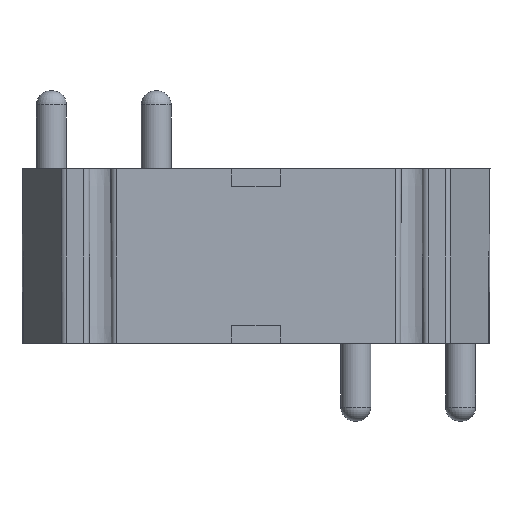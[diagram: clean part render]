
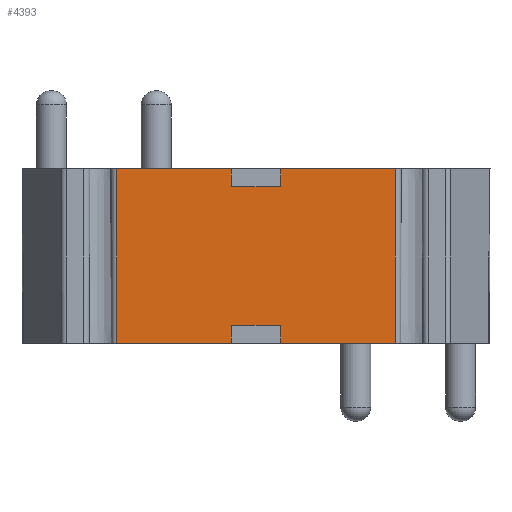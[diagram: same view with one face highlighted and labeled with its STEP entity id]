
A CAD part, front view. The second image highlights one B-rep face of the part: STEP entity #4393.
In plain terms, the highlighted planar face has unit normal (0, -1, -0.004).
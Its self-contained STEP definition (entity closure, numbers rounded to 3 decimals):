
#94 = AXIS2_PLACEMENT_3D ( 'NONE', #4882, #2897, #2138 ) ;
#132 = VERTEX_POINT ( 'NONE', #3778 ) ;
#141 = VECTOR ( 'NONE', #2865, 1000. ) ;
#202 = CARTESIAN_POINT ( 'NONE',  ( 13.95, 0., 0. ) ) ;
#217 = EDGE_CURVE ( 'NONE', #2160, #2809, #679, .T. ) ;
#268 = ORIENTED_EDGE ( 'NONE', *, *, #3731, .F. ) ;
#303 = CARTESIAN_POINT ( 'NONE',  ( 13.95, 0.061, -17.5 ) ) ;
#410 = ORIENTED_EDGE ( 'NONE', *, *, #1772, .T. ) ;
#534 = VERTEX_POINT ( 'NONE', #2699 ) ;
#557 = DIRECTION ( 'NONE',  ( -1., 0., 0. ) ) ;
#560 = CARTESIAN_POINT ( 'NONE',  ( 1.539, -0.003, 0.843 ) ) ;
#583 = VECTOR ( 'NONE', #4877, 1000. ) ;
#679 = LINE ( 'NONE', #2251, #1780 ) ;
#750 = DIRECTION ( 'NONE',  ( 0., 0.003, -1. ) ) ;
#755 = EDGE_LOOP ( 'NONE', ( #1923, #2454, #410, #4020, #797, #4946, #2634, #1502, #1904, #1657, #268, #2034 ) ) ;
#784 = VECTOR ( 'NONE', #1505, 1000. ) ;
#797 = ORIENTED_EDGE ( 'NONE', *, *, #4306, .F. ) ;
#918 = LINE ( 'NONE', #2477, #141 ) ;
#922 = CARTESIAN_POINT ( 'NONE',  ( -2.5, 0., 0. ) ) ;
#1044 = DIRECTION ( 'NONE',  ( 1., 0., 0. ) ) ;
#1066 = LINE ( 'NONE', #4907, #1742 ) ;
#1104 = EDGE_CURVE ( 'NONE', #2468, #4265, #1387, .T. ) ;
#1251 = VECTOR ( 'NONE', #4429, 1000. ) ;
#1285 = LINE ( 'NONE', #560, #3269 ) ;
#1315 = CARTESIAN_POINT ( 'NONE',  ( 2.453, 0.003, -0.891 ) ) ;
#1349 = CARTESIAN_POINT ( 'NONE',  ( -2.5, 0.061, -17.5 ) ) ;
#1387 = LINE ( 'NONE', #2203, #2416 ) ;
#1502 = ORIENTED_EDGE ( 'NONE', *, *, #4880, .F. ) ;
#1505 = DIRECTION ( 'NONE',  ( 1., 0., 0. ) ) ;
#1510 = CARTESIAN_POINT ( 'NONE',  ( -13.95, 0., 0. ) ) ;
#1580 = CARTESIAN_POINT ( 'NONE',  ( 2.5, 0.061, -17.5 ) ) ;
#1591 = VERTEX_POINT ( 'NONE', #3098 ) ;
#1657 = ORIENTED_EDGE ( 'NONE', *, *, #2233, .T. ) ;
#1709 = VERTEX_POINT ( 'NONE', #4041 ) ;
#1742 = VECTOR ( 'NONE', #557, 1000. ) ;
#1753 = PLANE ( 'NONE',  #94 ) ;
#1772 = EDGE_CURVE ( 'NONE', #3228, #4265, #2520, .T. ) ;
#1780 = VECTOR ( 'NONE', #2682, 1000. ) ;
#1809 = FACE_OUTER_BOUND ( 'NONE', #755, .T. ) ;
#1824 = LINE ( 'NONE', #4578, #4473 ) ;
#1904 = ORIENTED_EDGE ( 'NONE', *, *, #2273, .T. ) ;
#1923 = ORIENTED_EDGE ( 'NONE', *, *, #3403, .F. ) ;
#1964 = VERTEX_POINT ( 'NONE', #3131 ) ;
#1984 = VECTOR ( 'NONE', #750, 1000. ) ;
#2034 = ORIENTED_EDGE ( 'NONE', *, *, #4778, .T. ) ;
#2132 = CARTESIAN_POINT ( 'NONE',  ( -14.55, 0.055, -15.7 ) ) ;
#2138 = DIRECTION ( 'NONE',  ( 0., 0.003, -1. ) ) ;
#2145 = EDGE_CURVE ( 'NONE', #1591, #2809, #1066, .T. ) ;
#2160 = VERTEX_POINT ( 'NONE', #922 ) ;
#2203 = CARTESIAN_POINT ( 'NONE',  ( -14.55, 0., 0. ) ) ;
#2233 = EDGE_CURVE ( 'NONE', #1964, #4143, #3257, .T. ) ;
#2250 = CARTESIAN_POINT ( 'NONE',  ( -14.55, 0.061, -17.5 ) ) ;
#2251 = CARTESIAN_POINT ( 'NONE',  ( -2.533, -0.002, 0.63 ) ) ;
#2273 = EDGE_CURVE ( 'NONE', #1709, #1964, #3871, .T. ) ;
#2416 = VECTOR ( 'NONE', #3383, 1000. ) ;
#2424 = VECTOR ( 'NONE', #4070, 1000. ) ;
#2454 = ORIENTED_EDGE ( 'NONE', *, *, #2724, .T. ) ;
#2468 = VERTEX_POINT ( 'NONE', #4050 ) ;
#2477 = CARTESIAN_POINT ( 'NONE',  ( -1.618, 0.002, -0.678 ) ) ;
#2520 = LINE ( 'NONE', #202, #2424 ) ;
#2634 = ORIENTED_EDGE ( 'NONE', *, *, #217, .F. ) ;
#2682 = DIRECTION ( 'NONE',  ( 0.052, 0.003, -0.999 ) ) ;
#2699 = CARTESIAN_POINT ( 'NONE',  ( -2.406, 0.055, -15.7 ) ) ;
#2724 = EDGE_CURVE ( 'NONE', #2765, #3228, #3916, .T. ) ;
#2744 = CARTESIAN_POINT ( 'NONE',  ( 13.95, 0., 0. ) ) ;
#2765 = VERTEX_POINT ( 'NONE', #1580 ) ;
#2809 = VERTEX_POINT ( 'NONE', #3630 ) ;
#2846 = DIRECTION ( 'NONE',  ( -0.052, -0.003, 0.999 ) ) ;
#2865 = DIRECTION ( 'NONE',  ( -0.052, 0.003, -0.999 ) ) ;
#2897 = DIRECTION ( 'NONE',  ( 0., -1., -0.003 ) ) ;
#3098 = CARTESIAN_POINT ( 'NONE',  ( 2.406, 0.006, -1.8 ) ) ;
#3131 = CARTESIAN_POINT ( 'NONE',  ( -13.95, 0.061, -17.5 ) ) ;
#3228 = VERTEX_POINT ( 'NONE', #303 ) ;
#3257 = LINE ( 'NONE', #2250, #583 ) ;
#3269 = VECTOR ( 'NONE', #2846, 1000. ) ;
#3281 = LINE ( 'NONE', #2132, #4062 ) ;
#3383 = DIRECTION ( 'NONE',  ( 1., 0., 0. ) ) ;
#3403 = EDGE_CURVE ( 'NONE', #2765, #132, #1285, .T. ) ;
#3478 = CARTESIAN_POINT ( 'NONE',  ( -14.55, 0.061, -17.5 ) ) ;
#3630 = CARTESIAN_POINT ( 'NONE',  ( -2.406, 0.006, -1.8 ) ) ;
#3654 = LINE ( 'NONE', #1315, #1251 ) ;
#3700 = DIRECTION ( 'NONE',  ( 1., 0., 0. ) ) ;
#3731 = EDGE_CURVE ( 'NONE', #534, #4143, #918, .T. ) ;
#3778 = CARTESIAN_POINT ( 'NONE',  ( 2.406, 0.055, -15.7 ) ) ;
#3871 = LINE ( 'NONE', #1510, #1984 ) ;
#3916 = LINE ( 'NONE', #3478, #784 ) ;
#4020 = ORIENTED_EDGE ( 'NONE', *, *, #1104, .F. ) ;
#4041 = CARTESIAN_POINT ( 'NONE',  ( -13.95, 0., 0. ) ) ;
#4050 = CARTESIAN_POINT ( 'NONE',  ( 2.5, 0., 0. ) ) ;
#4062 = VECTOR ( 'NONE', #3700, 1000. ) ;
#4070 = DIRECTION ( 'NONE',  ( 0., -0.003, 1. ) ) ;
#4143 = VERTEX_POINT ( 'NONE', #1349 ) ;
#4265 = VERTEX_POINT ( 'NONE', #2744 ) ;
#4306 = EDGE_CURVE ( 'NONE', #1591, #2468, #3654, .T. ) ;
#4393 = ADVANCED_FACE ( 'NONE', ( #1809 ), #1753, .T. ) ;
#4429 = DIRECTION ( 'NONE',  ( 0.052, -0.003, 0.999 ) ) ;
#4473 = VECTOR ( 'NONE', #1044, 1000. ) ;
#4578 = CARTESIAN_POINT ( 'NONE',  ( -14.55, 0., 0. ) ) ;
#4778 = EDGE_CURVE ( 'NONE', #534, #132, #3281, .T. ) ;
#4877 = DIRECTION ( 'NONE',  ( 1., 0., 0. ) ) ;
#4880 = EDGE_CURVE ( 'NONE', #1709, #2160, #1824, .T. ) ;
#4882 = CARTESIAN_POINT ( 'NONE',  ( -14.55, 0., 0. ) ) ;
#4907 = CARTESIAN_POINT ( 'NONE',  ( -14.55, 0.006, -1.8 ) ) ;
#4946 = ORIENTED_EDGE ( 'NONE', *, *, #2145, .T. ) ;
